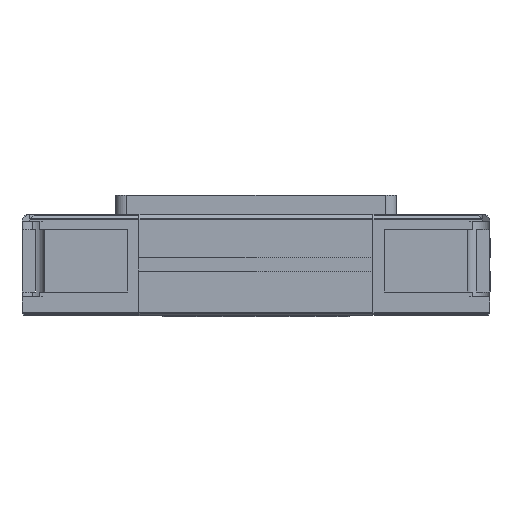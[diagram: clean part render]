
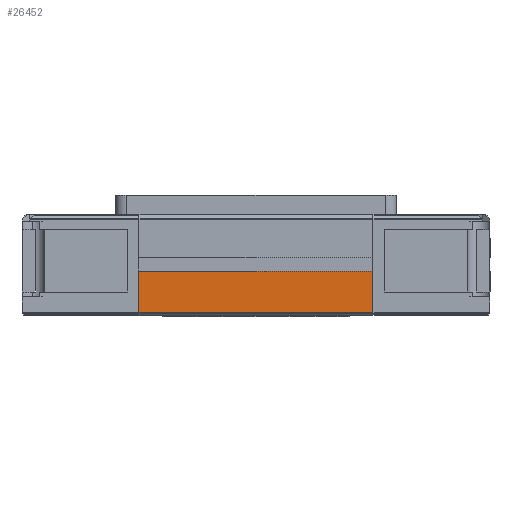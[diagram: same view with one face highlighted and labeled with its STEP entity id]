
A CAD part, left-side view. The second image highlights one B-rep face of the part: STEP entity #26452.
In plain terms, the highlighted planar face has unit normal (-1, 0, 0).
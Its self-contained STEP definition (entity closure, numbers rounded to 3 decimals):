
#285 = CARTESIAN_POINT ( 'NONE',  ( -154., 52., 1.207 ) ) ;
#2266 = ORIENTED_EDGE ( 'NONE', *, *, #37586, .F. ) ;
#2451 = PLANE ( 'NONE',  #18310 ) ;
#2574 = DIRECTION ( 'NONE',  ( 0., 0., -1. ) ) ;
#2693 = ORIENTED_EDGE ( 'NONE', *, *, #4537, .F. ) ;
#4404 = ORIENTED_EDGE ( 'NONE', *, *, #32519, .F. ) ;
#4537 = EDGE_CURVE ( 'NONE', #5733, #33868, #23860, .T. ) ;
#5733 = VERTEX_POINT ( 'NONE', #36426 ) ;
#7329 = LINE ( 'NONE', #9171, #22718 ) ;
#9171 = CARTESIAN_POINT ( 'NONE',  ( -154., 52., 45. ) ) ;
#9386 = CARTESIAN_POINT ( 'NONE',  ( -154., -52., 19.8 ) ) ;
#9401 = FACE_OUTER_BOUND ( 'NONE', #28085, .T. ) ;
#12202 = VECTOR ( 'NONE', #35655, 1000. ) ;
#17093 = VECTOR ( 'NONE', #23513, 1000. ) ;
#18310 = AXIS2_PLACEMENT_3D ( 'NONE', #37279, #19900, #2574 ) ;
#19228 = LINE ( 'NONE', #25788, #34230 ) ;
#19900 = DIRECTION ( 'NONE',  ( 1., 0., 0. ) ) ;
#19926 = EDGE_CURVE ( 'NONE', #33868, #37121, #7329, .T. ) ;
#22718 = VECTOR ( 'NONE', #29375, 1000. ) ;
#23513 = DIRECTION ( 'NONE',  ( 0., 1., 0. ) ) ;
#23860 = LINE ( 'NONE', #35015, #17093 ) ;
#25162 = VERTEX_POINT ( 'NONE', #9386 ) ;
#25788 = CARTESIAN_POINT ( 'NONE',  ( -154., -52., 45. ) ) ;
#26452 = ADVANCED_FACE ( 'NONE', ( #9401 ), #2451, .F. ) ;
#27187 = CARTESIAN_POINT ( 'NONE',  ( -154., 52., 19.8 ) ) ;
#27593 = LINE ( 'NONE', #29936, #12202 ) ;
#28085 = EDGE_LOOP ( 'NONE', ( #2266, #31596, #2693, #4404 ) ) ;
#28672 = DIRECTION ( 'NONE',  ( 0., 0., -1. ) ) ;
#29375 = DIRECTION ( 'NONE',  ( 0., 0., 1. ) ) ;
#29936 = CARTESIAN_POINT ( 'NONE',  ( -154., -100., 19.8 ) ) ;
#31596 = ORIENTED_EDGE ( 'NONE', *, *, #19926, .F. ) ;
#32519 = EDGE_CURVE ( 'NONE', #25162, #5733, #19228, .T. ) ;
#33868 = VERTEX_POINT ( 'NONE', #285 ) ;
#34230 = VECTOR ( 'NONE', #28672, 1000. ) ;
#35015 = CARTESIAN_POINT ( 'NONE',  ( -154., -369.934, 1.207 ) ) ;
#35655 = DIRECTION ( 'NONE',  ( 0., -1., 0. ) ) ;
#36426 = CARTESIAN_POINT ( 'NONE',  ( -154., -52., 1.207 ) ) ;
#37121 = VERTEX_POINT ( 'NONE', #27187 ) ;
#37279 = CARTESIAN_POINT ( 'NONE',  ( -154., -100., 45. ) ) ;
#37586 = EDGE_CURVE ( 'NONE', #37121, #25162, #27593, .T. ) ;
